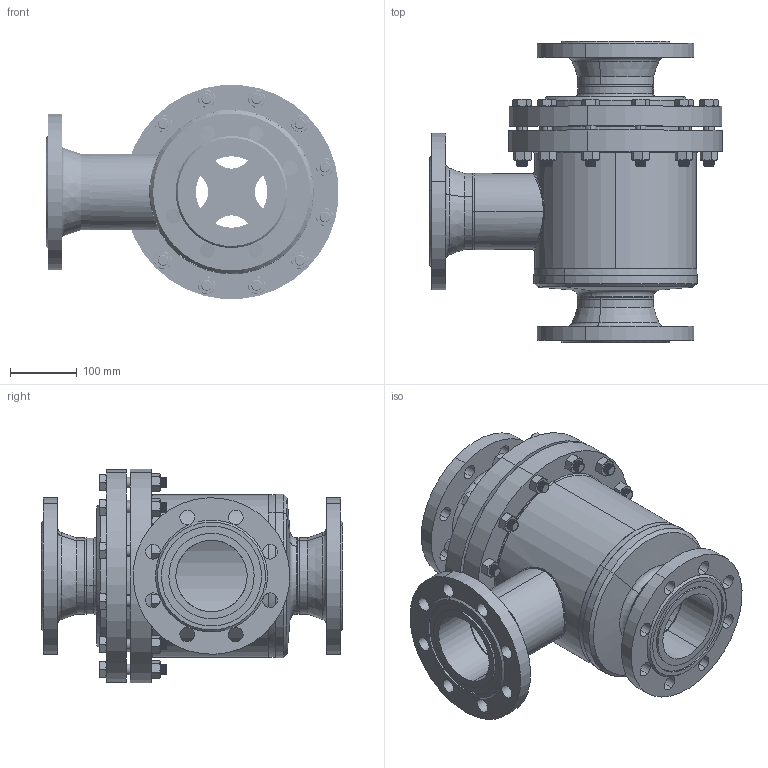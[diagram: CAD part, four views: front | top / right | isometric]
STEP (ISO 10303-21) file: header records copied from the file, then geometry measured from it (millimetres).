
FILE_DESCRIPTION (( 'STEP AP214' ), '1' );
FILE_NAME ('TR47020B19-DN100_DIN_PS25.STEP', '2005-08-10T11:25:51', ( 'Herr Grams' ), ( 'AWP GmbH' ), 'SwSTEP 2.0', 'SolidWorks 2002296', '' );
FILE_SCHEMA (( 'AUTOMOTIVE_DESIGN' ));
Length unit declared in the file: millimetre
Products named in the file (21): TR47020B19-DN100_DIN_PS25; Flansch-DIN-Nut_PS40_DIN-Flansch-DN100_PS40-Nut; TR47000B19-DN100_R1_PS25_Standard; loser Flansch47000E19_DN100_PS40_Standard; Deckel47000B19_DN100_PS25_R1_Standard; Geh-kpl47000B19-DN100_PS25_R1_Standard; Geh47000E19_DN100_PS40_R1_Standard; Boden47000E_DN65-100_PS40_DN100; RohrstutzA47000E19-DN100_PS40_R1_Standard; Kopfring47000E19_DN100_PS40_Standard; bead19-1_Standard; bead19-4_Standard; Kehlnaht19-2_Standard; Kehlnaht19-3_Standard; Andruckplatte47050-19-DN100_Standard; Führungsring47050-19-DN100_Standard; Sechskantschraube-DIN933-M16x90_M16x 90; Sechskantmutter-DIN934_M16; TR100-3_Standard; TR100-2_Standard; TR100-1_Standard
Assembly tree (44 placements, depth 4):
  TR47020B19-DN100_DIN_PS25
    Flansch-DIN-Nut_PS40_DIN-Flansch-DN100_PS40-Nut  x3
    TR47000B19-DN100_R1_PS25_Standard
      Deckel47000B19_DN100_PS25_R1_Standard
      Sechskantmutter-DIN934_M16  x12
      Sechskantschraube-DIN933-M16x90_M16x 90  x12
      Andruckplatte47050-19-DN100_Standard
      Geh-kpl47000B19-DN100_PS25_R1_Standard
        Kehlnaht19-2_Standard
        Kopfring47000E19_DN100_PS40_Standard
        Kehlnaht19-3_Standard
        RohrstutzA47000E19-DN100_PS40_R1_Standard
        bead19-4_Standard
        Geh47000E19_DN100_PS40_R1_Standard
        Boden47000E_DN65-100_PS40_DN100
        bead19-1_Standard
      loser Flansch47000E19_DN100_PS40_Standard
      Führungsring47050-19-DN100_Standard
    TR100-3_Standard
    TR100-1_Standard
    TR100-2_Standard
Bounding box: 439.39 x 451.5 x 320.77 mm (x, y, z)
Volume: 8659709 mm3; surface area: 1679555.5 mm2
Topology: 42 solids, 42 shells, 1411 faces, 3566 edges, 2250 vertices
Faces by surface type: cylinder 680, cone 400, plane 273, bspline 44, torus 14
Entity records: 35312 total; most frequent: CARTESIAN_POINT 25667, DIRECTION 1872, ORIENTED_EDGE 1766, EDGE_CURVE 883, AXIS2_PLACEMENT_3D 806, VERTEX_POINT 560, EDGE_LOOP 487, CIRCLE 412
